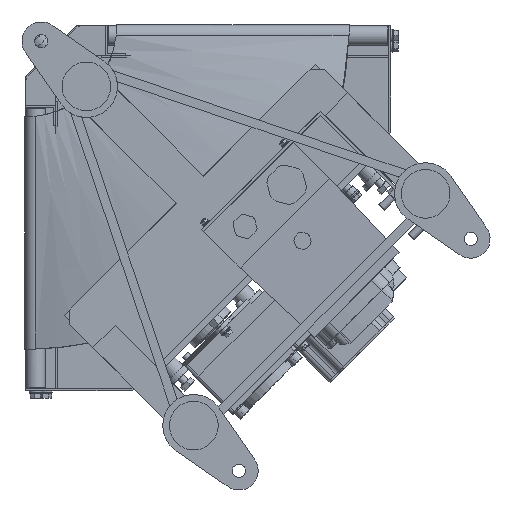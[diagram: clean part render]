
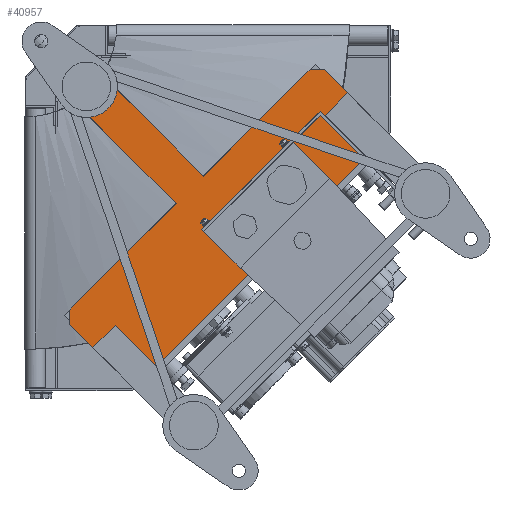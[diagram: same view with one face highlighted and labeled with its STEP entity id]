
A CAD part, front view. The second image highlights one B-rep face of the part: STEP entity #40957.
In plain terms, the highlighted planar face has unit normal (0, -1, 0).
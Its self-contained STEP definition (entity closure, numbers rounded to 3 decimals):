
#847 = LINE ( 'NONE', #25623, #49243 ) ;
#850 = FACE_OUTER_BOUND ( 'NONE', #46751, .T. ) ;
#1256 = DIRECTION ( 'NONE',  ( -0.707, 0., 0.707 ) ) ;
#2031 = ORIENTED_EDGE ( 'NONE', *, *, #39636, .T. ) ;
#2746 = CARTESIAN_POINT ( 'NONE',  ( 12.728, -167.5, -39.598 ) ) ;
#3232 = AXIS2_PLACEMENT_3D ( 'NONE', #26357, #17558, #22013 ) ;
#3308 = EDGE_CURVE ( 'NONE', #45377, #38295, #50945, .T. ) ;
#3928 = LINE ( 'NONE', #27227, #22753 ) ;
#4008 = DIRECTION ( 'NONE',  ( -0.707, 0., -0.707 ) ) ;
#4666 = VECTOR ( 'NONE', #4008, 1000. ) ;
#5319 = VECTOR ( 'NONE', #33517, 1000. ) ;
#6771 = CARTESIAN_POINT ( 'NONE',  ( 39.598, -167.5, -12.728 ) ) ;
#6866 = VERTEX_POINT ( 'NONE', #37531 ) ;
#8389 = PLANE ( 'NONE',  #3232 ) ;
#9097 = LINE ( 'NONE', #21712, #56838 ) ;
#10375 = EDGE_CURVE ( 'NONE', #45036, #24029, #22985, .T. ) ;
#10711 = EDGE_CURVE ( 'NONE', #6866, #32970, #52281, .T. ) ;
#11372 = CARTESIAN_POINT ( 'NONE',  ( 43.487, -167.5, -294.51 ) ) ;
#15852 = EDGE_CURVE ( 'NONE', #32970, #41737, #847, .T. ) ;
#15947 = ORIENTED_EDGE ( 'NONE', *, *, #51335, .F. ) ;
#17558 = DIRECTION ( 'NONE',  ( 0., -1., 0. ) ) ;
#17952 = LINE ( 'NONE', #43711, #4666 ) ;
#18011 = DIRECTION ( 'NONE',  ( -0.707, 0., -0.707 ) ) ;
#18525 = ORIENTED_EDGE ( 'NONE', *, *, #10375, .F. ) ;
#18865 = LINE ( 'NONE', #49236, #46220 ) ;
#19275 = CARTESIAN_POINT ( 'NONE',  ( 294.51, -167.5, -43.487 ) ) ;
#20773 = VECTOR ( 'NONE', #1256, 1000. ) ;
#21287 = EDGE_CURVE ( 'NONE', #38295, #34216, #42853, .T. ) ;
#21712 = CARTESIAN_POINT ( 'NONE',  ( 107.127, -167.5, -358.15 ) ) ;
#22013 = DIRECTION ( 'NONE',  ( 0., 0., -1. ) ) ;
#22753 = VECTOR ( 'NONE', #54530, 1000. ) ;
#22985 = LINE ( 'NONE', #2746, #47498 ) ;
#24029 = VERTEX_POINT ( 'NONE', #6771 ) ;
#24302 = DIRECTION ( 'NONE',  ( 0.707, 0., -0.707 ) ) ;
#24531 = CARTESIAN_POINT ( 'NONE',  ( 280.368, -167.5, -43.487 ) ) ;
#24581 = EDGE_CURVE ( 'NONE', #46946, #45377, #18865, .T. ) ;
#24654 = CARTESIAN_POINT ( 'NONE',  ( 43.487, -167.5, -294.51 ) ) ;
#25623 = CARTESIAN_POINT ( 'NONE',  ( 280.368, -167.5, -43.487 ) ) ;
#26007 = DIRECTION ( 'NONE',  ( -1., 0., 0. ) ) ;
#26357 = CARTESIAN_POINT ( 'NONE',  ( 0., -167.5, 0. ) ) ;
#27227 = CARTESIAN_POINT ( 'NONE',  ( 39.598, -167.5, -12.728 ) ) ;
#28355 = CARTESIAN_POINT ( 'NONE',  ( 43.487, -167.5, -294.51 ) ) ;
#30144 = EDGE_CURVE ( 'NONE', #34216, #6866, #9097, .T. ) ;
#30817 = VERTEX_POINT ( 'NONE', #55545 ) ;
#31578 = CARTESIAN_POINT ( 'NONE',  ( 12.728, -167.5, -39.598 ) ) ;
#32970 = VERTEX_POINT ( 'NONE', #36514 ) ;
#33353 = DIRECTION ( 'NONE',  ( 0.707, 0., 0.707 ) ) ;
#33517 = DIRECTION ( 'NONE',  ( -0.707, 0., 0.707 ) ) ;
#34216 = VERTEX_POINT ( 'NONE', #40600 ) ;
#34405 = CARTESIAN_POINT ( 'NONE',  ( 43.487, -167.5, -280.368 ) ) ;
#35909 = ORIENTED_EDGE ( 'NONE', *, *, #24581, .T. ) ;
#36105 = ORIENTED_EDGE ( 'NONE', *, *, #3308, .T. ) ;
#36514 = CARTESIAN_POINT ( 'NONE',  ( 294.51, -167.5, -43.487 ) ) ;
#37531 = CARTESIAN_POINT ( 'NONE',  ( 358.15, -167.5, -107.127 ) ) ;
#38295 = VERTEX_POINT ( 'NONE', #24654 ) ;
#38945 = VECTOR ( 'NONE', #42510, 1000. ) ;
#39636 = EDGE_CURVE ( 'NONE', #41737, #30817, #17952, .T. ) ;
#40453 = ORIENTED_EDGE ( 'NONE', *, *, #50893, .F. ) ;
#40600 = CARTESIAN_POINT ( 'NONE',  ( 107.127, -167.5, -358.15 ) ) ;
#40957 = ADVANCED_FACE ( 'NONE', ( #850 ), #8389, .T. ) ;
#41737 = VERTEX_POINT ( 'NONE', #24531 ) ;
#42510 = DIRECTION ( 'NONE',  ( 0., 0., -1. ) ) ;
#42853 = LINE ( 'NONE', #28355, #44294 ) ;
#43711 = CARTESIAN_POINT ( 'NONE',  ( 43.487, -167.5, -280.368 ) ) ;
#44294 = VECTOR ( 'NONE', #24302, 1000. ) ;
#44652 = LINE ( 'NONE', #55172, #20773 ) ;
#45036 = VERTEX_POINT ( 'NONE', #31578 ) ;
#45152 = ORIENTED_EDGE ( 'NONE', *, *, #15852, .T. ) ;
#45377 = VERTEX_POINT ( 'NONE', #34405 ) ;
#45502 = ORIENTED_EDGE ( 'NONE', *, *, #30144, .T. ) ;
#46220 = VECTOR ( 'NONE', #18011, 1000. ) ;
#46751 = EDGE_LOOP ( 'NONE', ( #40453, #35909, #36105, #54457, #45502, #52529, #45152, #2031, #15947, #18525 ) ) ;
#46946 = VERTEX_POINT ( 'NONE', #50995 ) ;
#47498 = VECTOR ( 'NONE', #33353, 1000. ) ;
#49236 = CARTESIAN_POINT ( 'NONE',  ( 43.487, -167.5, -280.368 ) ) ;
#49243 = VECTOR ( 'NONE', #26007, 1000. ) ;
#50893 = EDGE_CURVE ( 'NONE', #46946, #45036, #44652, .T. ) ;
#50945 = LINE ( 'NONE', #11372, #38945 ) ;
#50995 = CARTESIAN_POINT ( 'NONE',  ( 148.492, -167.5, -175.362 ) ) ;
#51335 = EDGE_CURVE ( 'NONE', #24029, #30817, #3928, .T. ) ;
#52281 = LINE ( 'NONE', #19275, #5319 ) ;
#52529 = ORIENTED_EDGE ( 'NONE', *, *, #10711, .T. ) ;
#52561 = DIRECTION ( 'NONE',  ( 0.707, 0., 0.707 ) ) ;
#54457 = ORIENTED_EDGE ( 'NONE', *, *, #21287, .T. ) ;
#54530 = DIRECTION ( 'NONE',  ( 0.707, 0., -0.707 ) ) ;
#55172 = CARTESIAN_POINT ( 'NONE',  ( 12.728, -167.5, -39.598 ) ) ;
#55545 = CARTESIAN_POINT ( 'NONE',  ( 175.362, -167.5, -148.492 ) ) ;
#56838 = VECTOR ( 'NONE', #52561, 1000. ) ;
